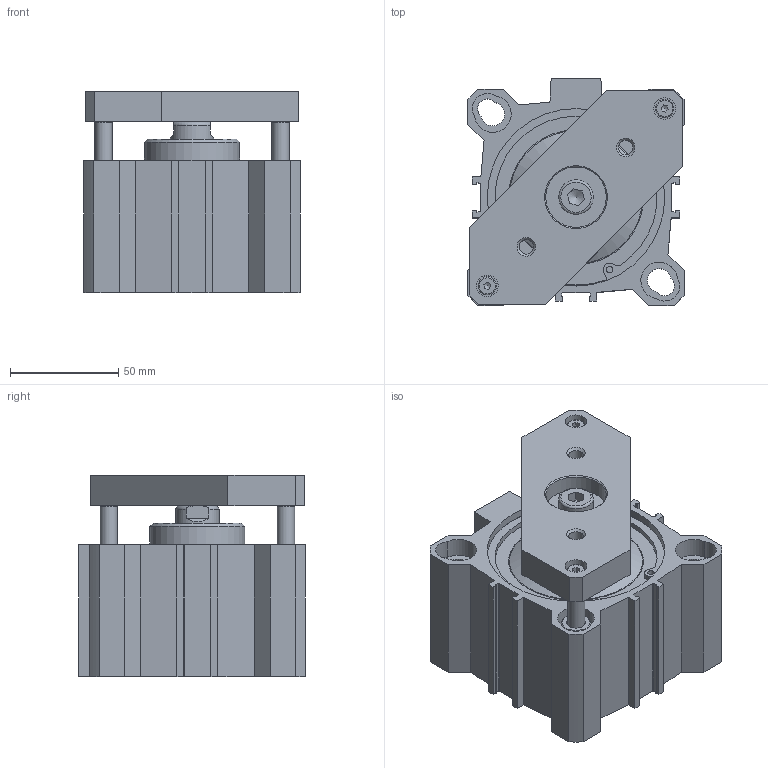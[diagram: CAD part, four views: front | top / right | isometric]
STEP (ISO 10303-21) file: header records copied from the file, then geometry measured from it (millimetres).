
FILE_DESCRIPTION(/* description */ ('Unknown'),/* implementation_level */ '2;1');
FILE_NAME(/* name */ 'FINT 80_15',/* time_stamp */ '2026-05-12T11:22:39+02:00',/* author */ ('Unknown'),/* organization */ ('Unknown'),/* preprocessor_version */ 'ST-DEVELOPER v18.102',/* originating_system */ 'Solid Edge',/* authorisation */ 'Unknown');
FILE_SCHEMA (('AUTOMOTIVE_DESIGN {1 0 10303 214 3 1 1}'));
Length unit declared in the file: millimetre
Products named in the file (7): FINT 80_15; Kit_1; Kolbenstange; Kit_2; Profilrohr; Platte; Führungsstange
Assembly tree (7 placements, depth 2):
  FINT 80_15
    Kit_1
    Kolbenstange
    Kit_2
    Profilrohr
    Platte
    Führungsstange  x2
Bounding box: 100 x 105 x 93 mm (x, y, z)
Volume: 480038.4 mm3; surface area: 140665.5 mm2
Topology: 9 solids, 9 shells, 338 faces, 809 edges, 520 vertices
Faces by surface type: plane 155, cylinder 115, cone 53, torus 15
Full cylindrical faces by diameter (mm): 3 x4, 4.134 x2, 4.3 x2, 5 x2, 5.5 x2, 6.647 x2, 8 x4, 8.376 x1, 8.5 x2, 10 x2, 10.25 x1, 11.445 x4, 13.8 x2, 16 x1, 20 x1, 20.6 x1, 21.9 x1, 23 x1, 25 x1, 28 x1, 44 x1, 62 x1, 80 x2, 80.2 x2, 81.7 x4, 82.1 x2, 85.6 x2
Entity records: 11163 total; most frequent: CARTESIAN_POINT 1652, DIRECTION 1594, ORIENTED_EDGE 1308, EDGE_CURVE 654, AXIS2_PLACEMENT_3D 630, FACE_BOUND 501, EDGE_LOOP 496, VERTEX_POINT 487
